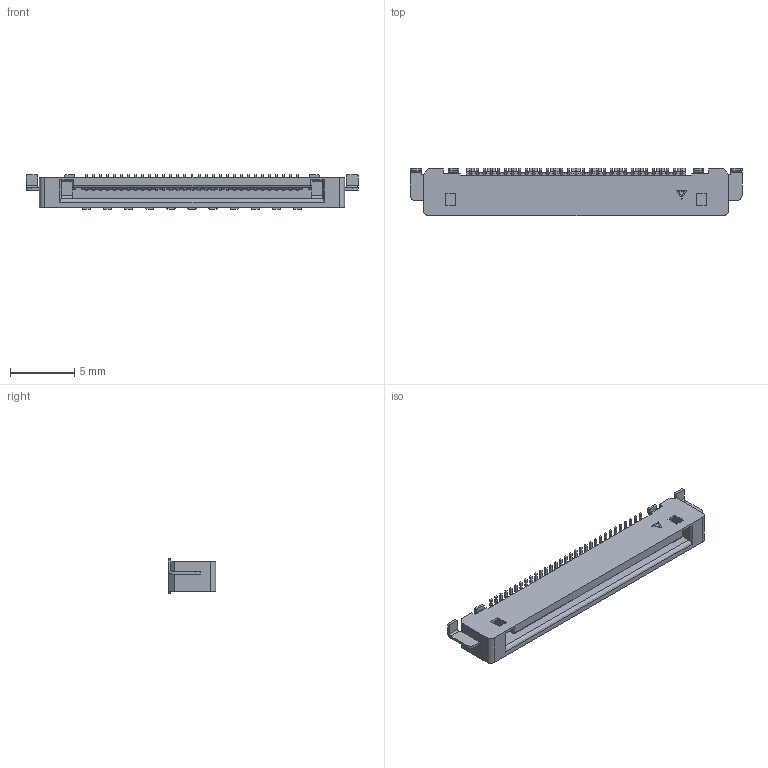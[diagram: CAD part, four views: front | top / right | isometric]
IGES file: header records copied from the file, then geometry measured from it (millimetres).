
Start section: Elysium IGES Interface
Global section: file name: C:\Users\1547\Desktop\P3E146_TSL00-31S.igs; native system: Creo Elements/Direct Modeling 20.2  28-Feb-2019; preprocessor: Creo Element/Direct IGES_3D V2.2; author: Unknown; organization: Unknown; date: 20220204.172149; units: millimetre
Bounding box: 25.92 x 3.7 x 2.72 mm (x, y, z)
Volume: 151.9 mm3; surface area: 440.3 mm2
Topology: 1 solids, 1 shells, 1273 faces, 3466 edges, 2232 vertices
Faces by surface type: bspline 1273
